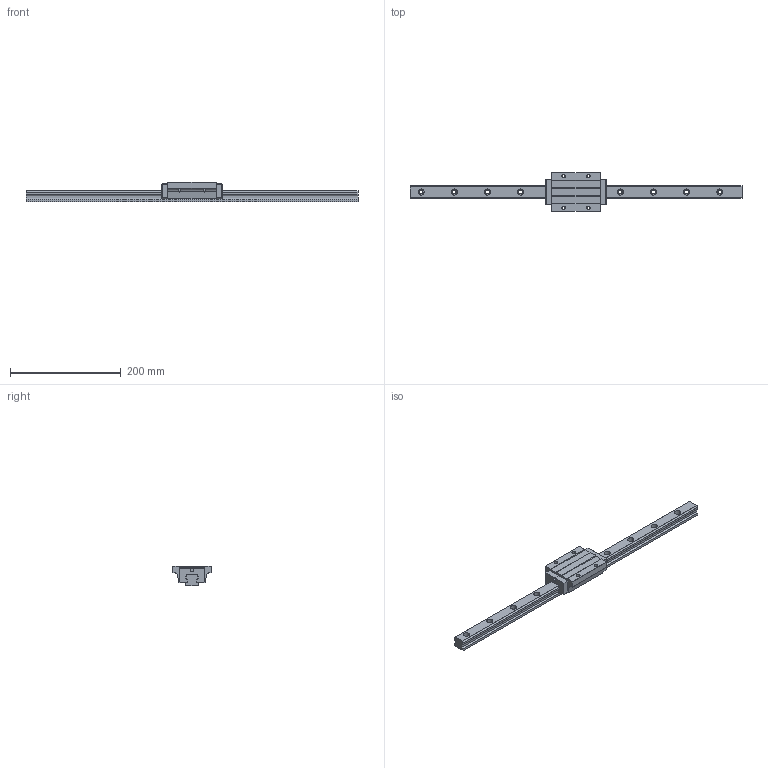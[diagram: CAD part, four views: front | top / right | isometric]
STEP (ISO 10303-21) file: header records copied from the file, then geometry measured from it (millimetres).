
FILE_DESCRIPTION (( 'STEP AP203' ), '1' );
FILE_NAME ('TRH25FE-XNC.STEP', '2024-08-16T05:46:02', ( '' ), ( '' ), 'SwSTEP 2.0', 'SolidWorks 2021', '' );
FILE_SCHEMA (( 'CONFIG_CONTROL_DESIGN' ));
Length unit declared in the file: millimetre
Products named in the file (1): TRH25FE-XNC
Bounding box: 600 x 70 x 36 mm (x, y, z)
Volume: 374885.8 mm3; surface area: 84454.3 mm2
Topology: 1 solids, 1 shells, 199 faces, 554 edges, 362 vertices
Faces by surface type: cylinder 108, plane 87, sphere 4
Entity records: 6859 total; most frequent: CARTESIAN_POINT 1484, DIRECTION 1136, ORIENTED_EDGE 1100, EDGE_CURVE 550, AXIS2_PLACEMENT_3D 406, VERTEX_POINT 362, LINE 324, VECTOR 324
